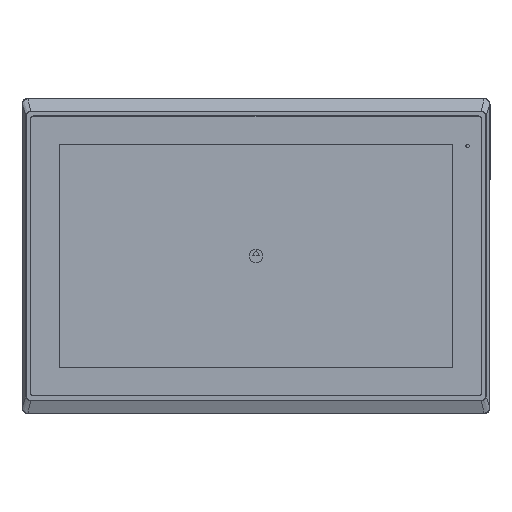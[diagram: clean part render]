
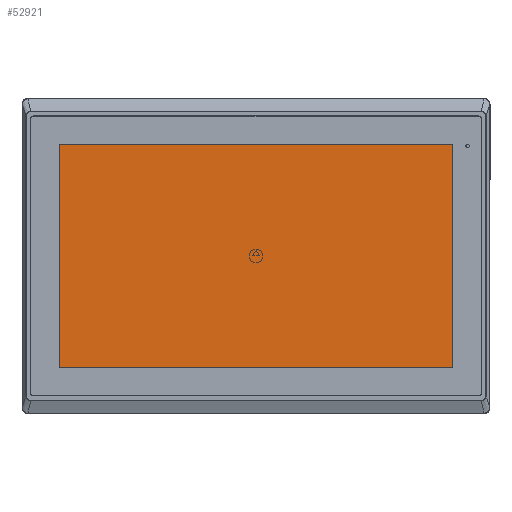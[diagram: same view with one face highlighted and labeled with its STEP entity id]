
A CAD part, top view. The second image highlights one B-rep face of the part: STEP entity #52921.
In plain terms, the highlighted planar face has unit normal (0, 0, 1).
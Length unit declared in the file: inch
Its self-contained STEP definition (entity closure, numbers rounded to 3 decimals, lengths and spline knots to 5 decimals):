
#1953 = CARTESIAN_POINT ( 'NONE',  ( 6.81417, 3.8502, 0.09646 ) ) ;
#3157 = VERTEX_POINT ( 'NONE', #21520 ) ;
#4972 = CARTESIAN_POINT ( 'NONE',  ( 6.81417, -3.8502, 0.09646 ) ) ;
#8100 = ORIENTED_EDGE ( 'NONE', *, *, #58702, .T. ) ;
#9717 = EDGE_LOOP ( 'NONE', ( #90385, #63620, #36196, #8100 ) ) ;
#12436 = EDGE_CURVE ( 'NONE', #22838, #78747, #29921, .T. ) ;
#12876 = DIRECTION ( 'NONE',  ( 0., 0., 1. ) ) ;
#21520 = CARTESIAN_POINT ( 'NONE',  ( -6.81417, 3.8502, 0.09646 ) ) ;
#22820 = VECTOR ( 'NONE', #67782, 39.37008 ) ;
#22838 = VERTEX_POINT ( 'NONE', #50144 ) ;
#23266 = DIRECTION ( 'NONE',  ( 1., 0., 0. ) ) ;
#27318 = VERTEX_POINT ( 'NONE', #75058 ) ;
#29921 = LINE ( 'NONE', #47445, #95903 ) ;
#36196 = ORIENTED_EDGE ( 'NONE', *, *, #92762, .T. ) ;
#38291 = CARTESIAN_POINT ( 'NONE',  ( 6.81417, -3.8502, 0.09646 ) ) ;
#45268 = PLANE ( 'NONE',  #89989 ) ;
#45768 = CARTESIAN_POINT ( 'NONE',  ( 0., 0., 0.09646 ) ) ;
#47445 = CARTESIAN_POINT ( 'NONE',  ( -6.81417, -3.8502, 0.09646 ) ) ;
#49368 = VECTOR ( 'NONE', #88672, 39.37008 ) ;
#50144 = CARTESIAN_POINT ( 'NONE',  ( -6.81417, -3.8502, 0.09646 ) ) ;
#52921 = ADVANCED_FACE ( 'NONE', ( #99831 ), #45268, .T. ) ;
#58702 = EDGE_CURVE ( 'NONE', #3157, #22838, #64527, .T. ) ;
#63620 = ORIENTED_EDGE ( 'NONE', *, *, #78484, .T. ) ;
#64527 = LINE ( 'NONE', #94915, #49368 ) ;
#66700 = VECTOR ( 'NONE', #67793, 39.37008 ) ;
#67415 = DIRECTION ( 'NONE',  ( 1., 0., 0. ) ) ;
#67782 = DIRECTION ( 'NONE',  ( -1., 0., 0. ) ) ;
#67793 = DIRECTION ( 'NONE',  ( 0., 1., 0. ) ) ;
#72475 = LINE ( 'NONE', #1953, #22820 ) ;
#75058 = CARTESIAN_POINT ( 'NONE',  ( 6.81417, 3.8502, 0.09646 ) ) ;
#75500 = LINE ( 'NONE', #4972, #66700 ) ;
#78484 = EDGE_CURVE ( 'NONE', #78747, #27318, #75500, .T. ) ;
#78747 = VERTEX_POINT ( 'NONE', #38291 ) ;
#88672 = DIRECTION ( 'NONE',  ( 0., -1., 0. ) ) ;
#89989 = AXIS2_PLACEMENT_3D ( 'NONE', #45768, #12876, #67415 ) ;
#90385 = ORIENTED_EDGE ( 'NONE', *, *, #12436, .T. ) ;
#92762 = EDGE_CURVE ( 'NONE', #27318, #3157, #72475, .T. ) ;
#94915 = CARTESIAN_POINT ( 'NONE',  ( -6.81417, 3.8502, 0.09646 ) ) ;
#95903 = VECTOR ( 'NONE', #23266, 39.37008 ) ;
#99831 = FACE_OUTER_BOUND ( 'NONE', #9717, .T. ) ;
